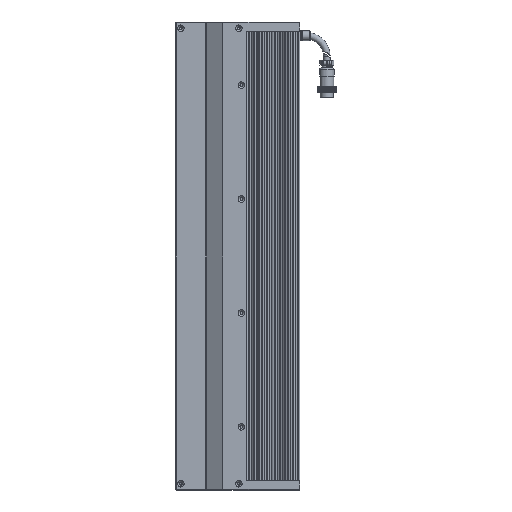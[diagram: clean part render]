
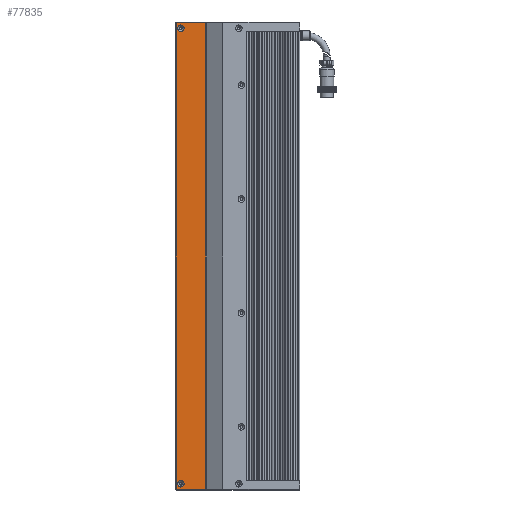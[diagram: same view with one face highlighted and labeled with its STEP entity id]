
A CAD part, left-side view. The second image highlights one B-rep face of the part: STEP entity #77835.
In plain terms, the highlighted planar face has unit normal (-1, 0, 0).
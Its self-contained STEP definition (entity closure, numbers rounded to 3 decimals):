
#1062 = VERTEX_POINT ( 'NONE', #12540 ) ;
#4696 = AXIS2_PLACEMENT_3D ( 'NONE', #49309, #40003, #107928 ) ;
#8195 = EDGE_CURVE ( 'NONE', #1062, #98805, #71978, .T. ) ;
#12341 = ORIENTED_EDGE ( 'NONE', *, *, #17972, .F. ) ;
#12482 = VERTEX_POINT ( 'NONE', #21969 ) ;
#12540 = CARTESIAN_POINT ( 'NONE',  ( -15.462, -6.987, 571. ) ) ;
#14884 = CIRCLE ( 'NONE', #101277, 3.15 ) ;
#15470 = AXIS2_PLACEMENT_3D ( 'NONE', #16464, #84362, #26657 ) ;
#16293 = EDGE_CURVE ( 'NONE', #98805, #121123, #28842, .T. ) ;
#16461 = FACE_BOUND ( 'NONE', #32654, .T. ) ;
#16464 = CARTESIAN_POINT ( 'NONE',  ( -15.462, 16.939, 565.5 ) ) ;
#17972 = EDGE_CURVE ( 'NONE', #12482, #12482, #14884, .T. ) ;
#21969 = CARTESIAN_POINT ( 'NONE',  ( -15.462, 16.939, 128.65 ) ) ;
#22555 = FACE_BOUND ( 'NONE', #37572, .T. ) ;
#26657 = DIRECTION ( 'NONE',  ( 0., 0., 1. ) ) ;
#27118 = VECTOR ( 'NONE', #108127, 1000. ) ;
#27789 = CARTESIAN_POINT ( 'NONE',  ( -15.462, 21.439, 120. ) ) ;
#28819 = CARTESIAN_POINT ( 'NONE',  ( -15.462, 21.439, 569.5 ) ) ;
#28842 = LINE ( 'NONE', #120340, #86522 ) ;
#31650 = CARTESIAN_POINT ( 'NONE',  ( -15.462, -7.561, 571. ) ) ;
#32654 = EDGE_LOOP ( 'NONE', ( #12341 ) ) ;
#35864 = EDGE_CURVE ( 'NONE', #121123, #105993, #68138, .T. ) ;
#37572 = EDGE_LOOP ( 'NONE', ( #100795 ) ) ;
#40003 = DIRECTION ( 'NONE',  ( 1., 0., 0. ) ) ;
#40030 = VECTOR ( 'NONE', #99570, 1000. ) ;
#42756 = CARTESIAN_POINT ( 'NONE',  ( -15.462, 16.939, 568.65 ) ) ;
#47801 = DIRECTION ( 'NONE',  ( -1., 0., 0. ) ) ;
#49309 = CARTESIAN_POINT ( 'NONE',  ( -15.462, -7.561, 569.5 ) ) ;
#61807 = DIRECTION ( 'NONE',  ( 0., 1., 0. ) ) ;
#68138 = LINE ( 'NONE', #28819, #27118 ) ;
#71978 = LINE ( 'NONE', #92699, #114497 ) ;
#75627 = CARTESIAN_POINT ( 'NONE',  ( -15.462, 21.439, 571. ) ) ;
#77835 = ADVANCED_FACE ( 'NONE', ( #16461, #22555, #107610 ), #107521, .F. ) ;
#84362 = DIRECTION ( 'NONE',  ( -1., 0., 0. ) ) ;
#85577 = ORIENTED_EDGE ( 'NONE', *, *, #125076, .F. ) ;
#86522 = VECTOR ( 'NONE', #61807, 1000. ) ;
#92699 = CARTESIAN_POINT ( 'NONE',  ( -15.462, -6.987, 569.5 ) ) ;
#98068 = CIRCLE ( 'NONE', #15470, 3.15 ) ;
#98805 = VERTEX_POINT ( 'NONE', #116980 ) ;
#99570 = DIRECTION ( 'NONE',  ( 0., -1., 0. ) ) ;
#100449 = EDGE_CURVE ( 'NONE', #103499, #103499, #98068, .T. ) ;
#100795 = ORIENTED_EDGE ( 'NONE', *, *, #100449, .F. ) ;
#101230 = ORIENTED_EDGE ( 'NONE', *, *, #8195, .F. ) ;
#101277 = AXIS2_PLACEMENT_3D ( 'NONE', #106010, #47801, #125934 ) ;
#102361 = ORIENTED_EDGE ( 'NONE', *, *, #35864, .F. ) ;
#103499 = VERTEX_POINT ( 'NONE', #42756 ) ;
#105993 = VERTEX_POINT ( 'NONE', #75627 ) ;
#106010 = CARTESIAN_POINT ( 'NONE',  ( -15.462, 16.939, 125.5 ) ) ;
#107521 = PLANE ( 'NONE',  #4696 ) ;
#107610 = FACE_OUTER_BOUND ( 'NONE', #108477, .T. ) ;
#107928 = DIRECTION ( 'NONE',  ( 0., 0., -1. ) ) ;
#108127 = DIRECTION ( 'NONE',  ( 0., 0., 1. ) ) ;
#108364 = LINE ( 'NONE', #31650, #40030 ) ;
#108477 = EDGE_LOOP ( 'NONE', ( #102361, #112815, #101230, #85577 ) ) ;
#112613 = DIRECTION ( 'NONE',  ( 0., 0., -1. ) ) ;
#112815 = ORIENTED_EDGE ( 'NONE', *, *, #16293, .F. ) ;
#114497 = VECTOR ( 'NONE', #112613, 1000. ) ;
#116980 = CARTESIAN_POINT ( 'NONE',  ( -15.462, -6.987, 120. ) ) ;
#120340 = CARTESIAN_POINT ( 'NONE',  ( -15.462, -7.561, 120. ) ) ;
#121123 = VERTEX_POINT ( 'NONE', #27789 ) ;
#125076 = EDGE_CURVE ( 'NONE', #105993, #1062, #108364, .T. ) ;
#125934 = DIRECTION ( 'NONE',  ( 0., 0., 1. ) ) ;
